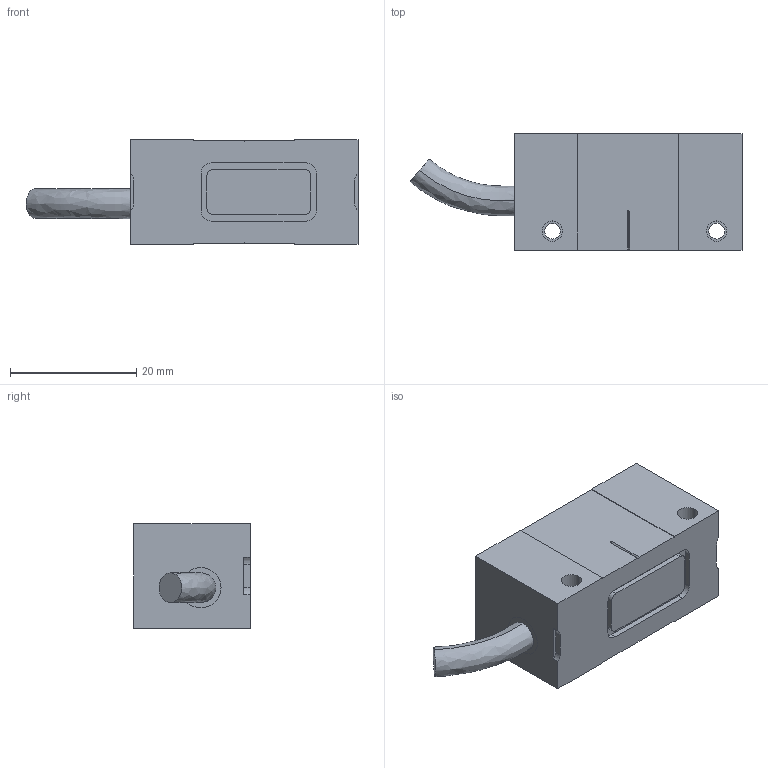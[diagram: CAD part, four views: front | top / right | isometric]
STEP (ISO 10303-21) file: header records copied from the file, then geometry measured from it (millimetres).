
FILE_DESCRIPTION (( 'STEP AP214' ), '1' );
FILE_NAME ('橈勤硉俋倛.STEP', '2021-10-20T07:31:19', ( '' ), ( '' ), 'SwSTEP 2.0', 'SolidWorks 2016', '' );
FILE_SCHEMA (( 'AUTOMOTIVE_DESIGN' ));
Length unit declared in the file: millimetre
Products named in the file (1): 橈勤硉俋倛
Bounding box: 52.54 x 18.4 x 16.5 mm (x, y, z)
Volume: 10482.2 mm3; surface area: 5657 mm2
Topology: 5 solids, 5 shells, 104 faces, 258 edges, 169 vertices
Faces by surface type: plane 54, cylinder 44, cone 4, bspline 2
Entity records: 4614 total; most frequent: CARTESIAN_POINT 856, DIRECTION 544, ORIENTED_EDGE 508, EDGE_CURVE 254, AXIS2_PLACEMENT_3D 193, VERTEX_POINT 169, LINE 158, VECTOR 158
